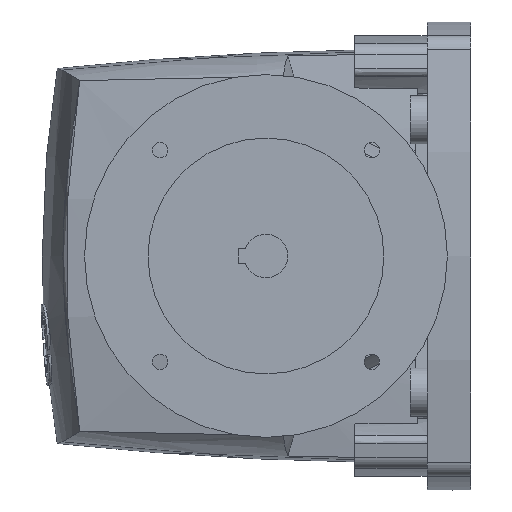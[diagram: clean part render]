
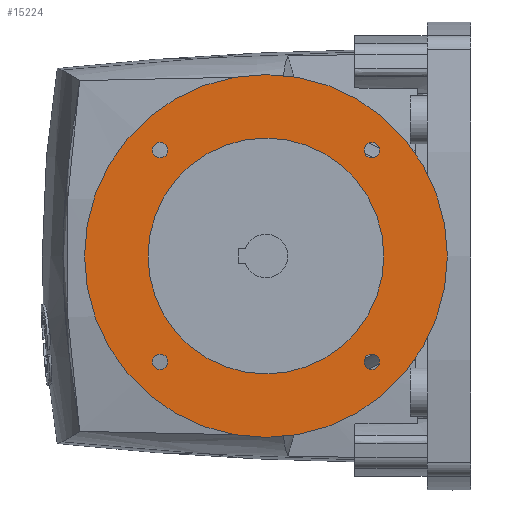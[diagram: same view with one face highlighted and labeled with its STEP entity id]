
A CAD part, left-side view. The second image highlights one B-rep face of the part: STEP entity #15224.
In plain terms, the highlighted planar face has unit normal (-1, 0, 0).
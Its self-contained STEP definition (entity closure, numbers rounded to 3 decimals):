
#2514=CARTESIAN_POINT('',(-157.,54.664,58.336));
#2515=DIRECTION('',(1.,0.,0.));
#2516=DIRECTION('',(0.,-1.,0.));
#2517=AXIS2_PLACEMENT_3D('',#2514,#2515,#2516);
#2519=CARTESIAN_POINT('',(-157.,54.664,58.336));
#2520=DIRECTION('',(1.,0.,0.));
#2521=DIRECTION('',(0.,1.,0.));
#2522=AXIS2_PLACEMENT_3D('',#2519,#2520,#2521);
#2524=CARTESIAN_POINT('',(-157.,171.336,58.336));
#2525=DIRECTION('',(1.,0.,0.));
#2526=DIRECTION('',(0.,-1.,0.));
#2527=AXIS2_PLACEMENT_3D('',#2524,#2525,#2526);
#2529=CARTESIAN_POINT('',(-157.,171.336,58.336));
#2530=DIRECTION('',(1.,0.,0.));
#2531=DIRECTION('',(0.,1.,0.));
#2532=AXIS2_PLACEMENT_3D('',#2529,#2530,#2531);
#2534=CARTESIAN_POINT('',(-157.,54.664,-58.336));
#2535=DIRECTION('',(1.,0.,0.));
#2536=DIRECTION('',(0.,-1.,0.));
#2537=AXIS2_PLACEMENT_3D('',#2534,#2535,#2536);
#2539=CARTESIAN_POINT('',(-157.,54.664,-58.336));
#2540=DIRECTION('',(1.,0.,0.));
#2541=DIRECTION('',(0.,1.,0.));
#2542=AXIS2_PLACEMENT_3D('',#2539,#2540,#2541);
#2544=CARTESIAN_POINT('',(-157.,171.336,-58.336));
#2545=DIRECTION('',(1.,0.,0.));
#2546=DIRECTION('',(0.,-1.,0.));
#2547=AXIS2_PLACEMENT_3D('',#2544,#2545,#2546);
#2549=CARTESIAN_POINT('',(-157.,171.336,-58.336));
#2550=DIRECTION('',(1.,0.,0.));
#2551=DIRECTION('',(0.,1.,0.));
#2552=AXIS2_PLACEMENT_3D('',#2549,#2550,#2551);
#2554=CARTESIAN_POINT('',(-157.,113.,0.));
#2555=DIRECTION('',(-1.,0.,0.));
#2556=DIRECTION('',(0.,1.,0.));
#2557=AXIS2_PLACEMENT_3D('',#2554,#2555,#2556);
#2559=CARTESIAN_POINT('',(-157.,113.,0.));
#2560=DIRECTION('',(-1.,0.,0.));
#2561=DIRECTION('',(0.,-1.,0.));
#2562=AXIS2_PLACEMENT_3D('',#2559,#2560,#2561);
#2564=CARTESIAN_POINT('',(-157.,113.,0.));
#2565=DIRECTION('',(1.,0.,0.));
#2566=DIRECTION('',(0.,-1.,0.));
#2567=AXIS2_PLACEMENT_3D('',#2564,#2565,#2566);
#2569=CARTESIAN_POINT('',(-157.,113.,0.));
#2570=DIRECTION('',(1.,0.,0.));
#2571=DIRECTION('',(0.,1.,0.));
#2572=AXIS2_PLACEMENT_3D('',#2569,#2570,#2571);
#10264=CARTESIAN_POINT('',(-157.,13.,0.));
#10266=VERTEX_POINT('',#10264);
#10270=CARTESIAN_POINT('',(-157.,178.,0.));
#10272=VERTEX_POINT('',#10270);
#10274=CARTESIAN_POINT('',(-157.,48.,0.));
#10275=VERTEX_POINT('',#10274);
#10286=CARTESIAN_POINT('',(-157.,213.,0.));
#10287=VERTEX_POINT('',#10286);
#10947=CARTESIAN_POINT('',(-157.,167.086,58.336));
#10948=CARTESIAN_POINT('',(-157.,175.586,58.336));
#10949=VERTEX_POINT('',#10947);
#10950=VERTEX_POINT('',#10948);
#10951=CARTESIAN_POINT('',(-157.,50.414,58.336));
#10952=CARTESIAN_POINT('',(-157.,58.914,58.336));
#10953=VERTEX_POINT('',#10951);
#10954=VERTEX_POINT('',#10952);
#10955=CARTESIAN_POINT('',(-157.,50.414,-58.336));
#10956=CARTESIAN_POINT('',(-157.,58.914,-58.336));
#10957=VERTEX_POINT('',#10955);
#10958=VERTEX_POINT('',#10956);
#10959=CARTESIAN_POINT('',(-157.,167.086,-58.336));
#10960=CARTESIAN_POINT('',(-157.,175.586,-58.336));
#10961=VERTEX_POINT('',#10959);
#10962=VERTEX_POINT('',#10960);
#15184=CARTESIAN_POINT('',(-157.,113.,0.));
#15185=DIRECTION('',(-1.,0.,0.));
#15186=DIRECTION('',(0.,1.,0.));
#15187=AXIS2_PLACEMENT_3D('',#15184,#15185,#15186);
#15188=PLANE('',#15187);
#15190=ORIENTED_EDGE('',*,*,#15189,.F.);
#15192=ORIENTED_EDGE('',*,*,#15191,.F.);
#15193=EDGE_LOOP('',(#15190,#15192));
#15194=FACE_OUTER_BOUND('',#15193,.F.);
#15195=ORIENTED_EDGE('',*,*,#15174,.F.);
#15197=ORIENTED_EDGE('',*,*,#15196,.F.);
#15198=EDGE_LOOP('',(#15195,#15197));
#15199=FACE_BOUND('',#15198,.F.);
#15201=ORIENTED_EDGE('',*,*,#15200,.F.);
#15203=ORIENTED_EDGE('',*,*,#15202,.F.);
#15204=EDGE_LOOP('',(#15201,#15203));
#15205=FACE_BOUND('',#15204,.F.);
#15207=ORIENTED_EDGE('',*,*,#15206,.F.);
#15209=ORIENTED_EDGE('',*,*,#15208,.F.);
#15210=EDGE_LOOP('',(#15207,#15209));
#15211=FACE_BOUND('',#15210,.F.);
#15213=ORIENTED_EDGE('',*,*,#15212,.F.);
#15215=ORIENTED_EDGE('',*,*,#15214,.F.);
#15216=EDGE_LOOP('',(#15213,#15215));
#15217=FACE_BOUND('',#15216,.F.);
#15219=ORIENTED_EDGE('',*,*,#15218,.F.);
#15221=ORIENTED_EDGE('',*,*,#15220,.F.);
#15222=EDGE_LOOP('',(#15219,#15221));
#15223=FACE_BOUND('',#15222,.F.);
#15224=ADVANCED_FACE('',(#15194,#15199,#15205,#15211,#15217,#15223),#15188,.T.);
#2518=CIRCLE('',#2517,4.25);
#2523=CIRCLE('',#2522,4.25);
#2528=CIRCLE('',#2527,4.25);
#2533=CIRCLE('',#2532,4.25);
#2538=CIRCLE('',#2537,4.25);
#2543=CIRCLE('',#2542,4.25);
#2548=CIRCLE('',#2547,4.25);
#2553=CIRCLE('',#2552,4.25);
#2558=CIRCLE('',#2557,100.);
#2563=CIRCLE('',#2562,100.);
#2568=CIRCLE('',#2567,65.);
#2573=CIRCLE('',#2572,65.);
#15174=EDGE_CURVE('',#10953,#10954,#2518,.T.);
#15189=EDGE_CURVE('',#10287,#10266,#2558,.T.);
#15191=EDGE_CURVE('',#10266,#10287,#2563,.T.);
#15196=EDGE_CURVE('',#10954,#10953,#2523,.T.);
#15200=EDGE_CURVE('',#10949,#10950,#2528,.T.);
#15202=EDGE_CURVE('',#10950,#10949,#2533,.T.);
#15206=EDGE_CURVE('',#10957,#10958,#2538,.T.);
#15208=EDGE_CURVE('',#10958,#10957,#2543,.T.);
#15212=EDGE_CURVE('',#10961,#10962,#2548,.T.);
#15214=EDGE_CURVE('',#10962,#10961,#2553,.T.);
#15218=EDGE_CURVE('',#10275,#10272,#2568,.T.);
#15220=EDGE_CURVE('',#10272,#10275,#2573,.T.);
